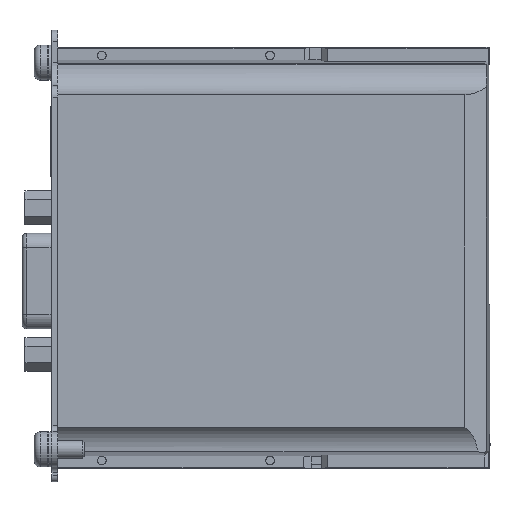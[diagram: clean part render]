
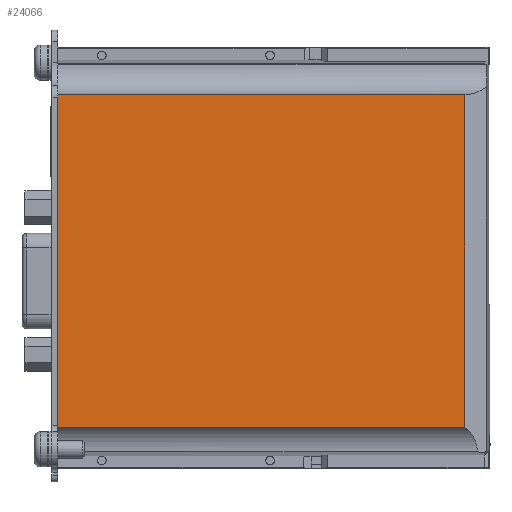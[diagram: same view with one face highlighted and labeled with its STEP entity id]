
A CAD part, top view. The second image highlights one B-rep face of the part: STEP entity #24066.
In plain terms, the highlighted planar face has unit normal (0, 0, 1).
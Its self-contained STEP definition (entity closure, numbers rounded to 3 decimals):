
#1609=PLANE('',#25376);
#2898=FACE_OUTER_BOUND('',#4221,.T.);
#4221=EDGE_LOOP('',(#21203,#21204,#21205,#21206));
#6019=LINE('',#55427,#8529);
#6645=LINE('',#58761,#9155);
#6650=LINE('',#58774,#9160);
#6651=LINE('',#58776,#9161);
#8529=VECTOR('',#28899,10.);
#9155=VECTOR('',#30101,10.);
#9160=VECTOR('',#30116,10.);
#9161=VECTOR('',#30119,10.);
#11352=VERTEX_POINT('',#55424);
#11353=VERTEX_POINT('',#55426);
#11767=VERTEX_POINT('',#58758);
#11771=VERTEX_POINT('',#58771);
#14191=EDGE_CURVE('',#11353,#11352,#6019,.T.);
#14983=EDGE_CURVE('',#11352,#11767,#6645,.T.);
#14990=EDGE_CURVE('',#11353,#11771,#6650,.T.);
#14991=EDGE_CURVE('',#11771,#11767,#6651,.T.);
#21203=ORIENTED_EDGE('',*,*,#14991,.F.);
#21204=ORIENTED_EDGE('',*,*,#14990,.F.);
#21205=ORIENTED_EDGE('',*,*,#14191,.T.);
#21206=ORIENTED_EDGE('',*,*,#14983,.T.);
#24066=ADVANCED_FACE('',(#2898),#1609,.T.);
#25376=AXIS2_PLACEMENT_3D('',#58775,#30117,#30118);
#28899=DIRECTION('',(0.,-1.,0.));
#30101=DIRECTION('',(1.,0.,0.));
#30116=DIRECTION('',(1.,0.,0.));
#30117=DIRECTION('center_axis',(0.,0.,
1.));
#30118=DIRECTION('ref_axis',(1.,0.,0.));
#30119=DIRECTION('',(0.,-1.,0.));
#55424=CARTESIAN_POINT('',(-11.2,2.979,18.6));
#55426=CARTESIAN_POINT('',(-11.2,59.755,18.6));
#55427=CARTESIAN_POINT('',(-11.2,59.755,18.6));
#58758=CARTESIAN_POINT('',(58.227,2.979,18.6));
#58761=CARTESIAN_POINT('',(-11.2,2.979,18.6));
#58771=CARTESIAN_POINT('',(58.227,59.755,18.6));
#58774=CARTESIAN_POINT('',(-11.2,59.755,18.6));
#58775=CARTESIAN_POINT('Origin',(-11.2,2.979,18.6));
#58776=CARTESIAN_POINT('',(58.227,17.507,18.6));
